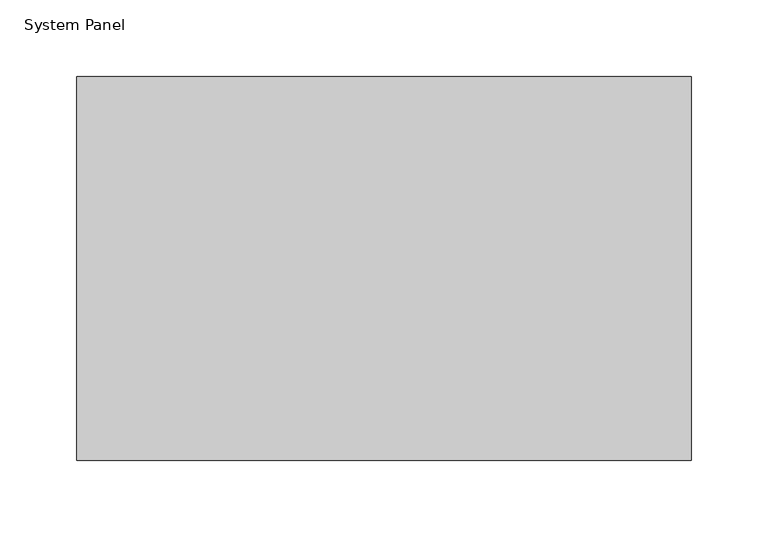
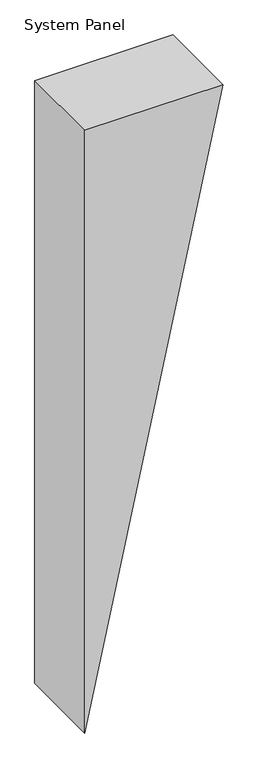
"""IFC4 building model written with IfcOpenShell, lengths in millimetres: plate geometry, System Panel : Equitilt_250mm_Plain_Surfmist."""

from ifc_helpers import new_model, si_unit, frame, origin, place, context, project, spatial, polyline, outline, extrude, source, transform, mapped, element, save


def system_panel_8c28efb0(model_context):
    return source(origin(), model_context, "Body", "SweptSolid", [
        extrude(outline(polyline([(1839.9852118, -200.0), (0.0, -200.0), (1839.9852118, 200.0), (1839.9852118, -200.0)])), frame((0.0, -250.0, 0.0), z_axis=(0.0, 1.0, 0.0), x_axis=(0.0, 0.0, 1.0)), (0.0, 0.0, 1.0), 250.0),
    ])


if __name__ == "__main__":
    model = new_model("IFC4")
    model_context = context("Model", 3, world=origin())
    ifc_project = project(units=[si_unit("LENGTHUNIT", "METRE", prefix="MILLI")], contexts=[model_context])
    site = spatial("IfcSite", under=ifc_project)
    building = spatial("IfcBuilding", under=site)
    placement = place(None, origin())
    system_panel_shape = system_panel_8c28efb0(model_context)
    element("IfcPlate", 1, ObjectType="System Panel : Equitilt_250mm_Plain_Surfmist", at=placement, inside=building, context=model_context, shape_type="MappedRepresentation", body=[
        mapped(system_panel_shape, transform((0.0, 0.0, 0.0), x_axis=(1.0, 0.0, 0.0), y_axis=(0.0, 1.0, 0.0), z_axis=(0.0, 0.0, 1.0))),
    ])
    save(model, "model.ifc")
